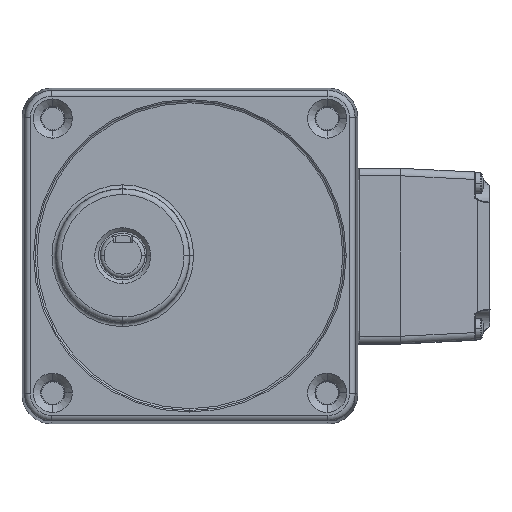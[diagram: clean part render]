
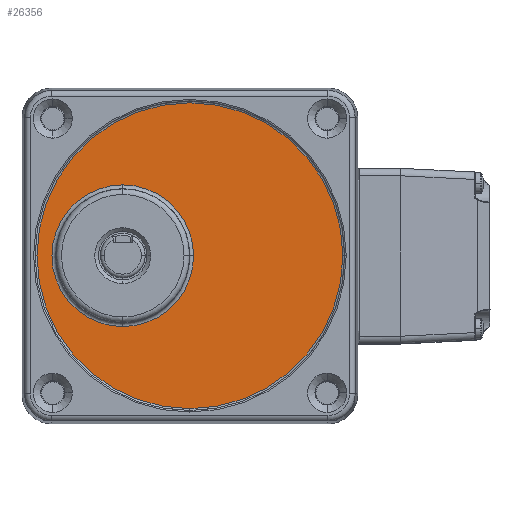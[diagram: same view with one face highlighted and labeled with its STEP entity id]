
A CAD part, top view. The second image highlights one B-rep face of the part: STEP entity #26356.
In plain terms, the highlighted planar face has unit normal (0, 0, 1) as drawn and (1, 0, 0) by its records, which use the part's own axes.
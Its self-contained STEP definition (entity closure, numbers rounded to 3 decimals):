
#1435 = CIRCLE ( 'NONE', #46770, 40.991 ) ;
#2645 = DIRECTION ( 'NONE',  ( 1., 0., 0. ) ) ;
#4442 = EDGE_LOOP ( 'NONE', ( #45430, #46158, #19526 ) ) ;
#4648 = AXIS2_PLACEMENT_3D ( 'NONE', #16379, #28950, #45587 ) ;
#6667 = CARTESIAN_POINT ( 'NONE',  ( 2679.792, -793.157, 18.983 ) ) ;
#6736 = DIRECTION ( 'NONE',  ( 0., 0., -1. ) ) ;
#8620 = VERTEX_POINT ( 'NONE', #36363 ) ;
#11784 = CIRCLE ( 'NONE', #51866, 18.983 ) ;
#12139 = AXIS2_PLACEMENT_3D ( 'NONE', #13954, #17797, #42364 ) ;
#12141 = VERTEX_POINT ( 'NONE', #51263 ) ;
#12246 = DIRECTION ( 'NONE',  ( 0., 0., -1. ) ) ;
#13740 = DIRECTION ( 'NONE',  ( 1., 0., 0. ) ) ;
#13954 = CARTESIAN_POINT ( 'NONE',  ( 2679.792, -775.157, 0. ) ) ;
#14008 = DIRECTION ( 'NONE',  ( 0., 1., 0. ) ) ;
#14709 = VERTEX_POINT ( 'NONE', #33470 ) ;
#16379 = CARTESIAN_POINT ( 'NONE',  ( 2679.792, -775.157, 0. ) ) ;
#16508 = ORIENTED_EDGE ( 'NONE', *, *, #33579, .F. ) ;
#16714 = CIRCLE ( 'NONE', #47210, 18.983 ) ;
#17272 = DIRECTION ( 'NONE',  ( 1., 0., 0. ) ) ;
#17797 = DIRECTION ( 'NONE',  ( -1., 0., 0. ) ) ;
#17847 = FACE_BOUND ( 'NONE', #4442, .T. ) ;
#19526 = ORIENTED_EDGE ( 'NONE', *, *, #47235, .F. ) ;
#19737 = EDGE_CURVE ( 'NONE', #14709, #22625, #19964, .T. ) ;
#19964 = CIRCLE ( 'NONE', #32166, 18.983 ) ;
#20419 = VERTEX_POINT ( 'NONE', #6667 ) ;
#21674 = EDGE_CURVE ( 'NONE', #8620, #46186, #1435, .T. ) ;
#21899 = CARTESIAN_POINT ( 'NONE',  ( 2679.792, -793.157, 0. ) ) ;
#22625 = VERTEX_POINT ( 'NONE', #37713 ) ;
#24730 = CARTESIAN_POINT ( 'NONE',  ( 2679.792, -775.157, 40.991 ) ) ;
#26069 = EDGE_LOOP ( 'NONE', ( #26781, #16508, #43825 ) ) ;
#26356 = ADVANCED_FACE ( 'NONE', ( #41881, #17847 ), #51113, .T. ) ;
#26781 = ORIENTED_EDGE ( 'NONE', *, *, #21674, .F. ) ;
#28196 = CIRCLE ( 'NONE', #4648, 40.991 ) ;
#28916 = DIRECTION ( 'NONE',  ( -1., 0., 0. ) ) ;
#28950 = DIRECTION ( 'NONE',  ( -1., 0., 0. ) ) ;
#30471 = CIRCLE ( 'NONE', #12139, 40.991 ) ;
#31305 = CARTESIAN_POINT ( 'NONE',  ( 2679.792, -793.157, 0. ) ) ;
#32166 = AXIS2_PLACEMENT_3D ( 'NONE', #21899, #34202, #50001 ) ;
#33470 = CARTESIAN_POINT ( 'NONE',  ( 2679.792, -793.157, -18.983 ) ) ;
#33579 = EDGE_CURVE ( 'NONE', #12141, #8620, #30471, .T. ) ;
#33688 = CARTESIAN_POINT ( 'NONE',  ( 2679.792, -775.157, 0. ) ) ;
#34202 = DIRECTION ( 'NONE',  ( 1., 0., 0. ) ) ;
#35660 = EDGE_CURVE ( 'NONE', #20419, #14709, #16714, .T. ) ;
#36363 = CARTESIAN_POINT ( 'NONE',  ( 2679.792, -775.157, -40.991 ) ) ;
#37713 = CARTESIAN_POINT ( 'NONE',  ( 2679.792, -774.175, 0. ) ) ;
#38016 = CARTESIAN_POINT ( 'NONE',  ( 2679.792, -793.157, 0. ) ) ;
#39363 = AXIS2_PLACEMENT_3D ( 'NONE', #33688, #13740, #14008 ) ;
#41463 = CARTESIAN_POINT ( 'NONE',  ( 2679.792, -775.157, 0. ) ) ;
#41881 = FACE_OUTER_BOUND ( 'NONE', #26069, .T. ) ;
#42364 = DIRECTION ( 'NONE',  ( 0., 0., 1. ) ) ;
#43825 = ORIENTED_EDGE ( 'NONE', *, *, #50287, .F. ) ;
#45430 = ORIENTED_EDGE ( 'NONE', *, *, #19737, .F. ) ;
#45587 = DIRECTION ( 'NONE',  ( 0., 0., 1. ) ) ;
#46158 = ORIENTED_EDGE ( 'NONE', *, *, #35660, .F. ) ;
#46186 = VERTEX_POINT ( 'NONE', #24730 ) ;
#46770 = AXIS2_PLACEMENT_3D ( 'NONE', #41463, #28916, #12246 ) ;
#47210 = AXIS2_PLACEMENT_3D ( 'NONE', #38016, #17272, #50812 ) ;
#47235 = EDGE_CURVE ( 'NONE', #22625, #20419, #11784, .T. ) ;
#50001 = DIRECTION ( 'NONE',  ( 0., 0., -1. ) ) ;
#50287 = EDGE_CURVE ( 'NONE', #46186, #12141, #28196, .T. ) ;
#50812 = DIRECTION ( 'NONE',  ( 0., 0., 1. ) ) ;
#51113 = PLANE ( 'NONE',  #39363 ) ;
#51263 = CARTESIAN_POINT ( 'NONE',  ( 2679.792, -734.166, 0. ) ) ;
#51866 = AXIS2_PLACEMENT_3D ( 'NONE', #31305, #2645, #6736 ) ;
